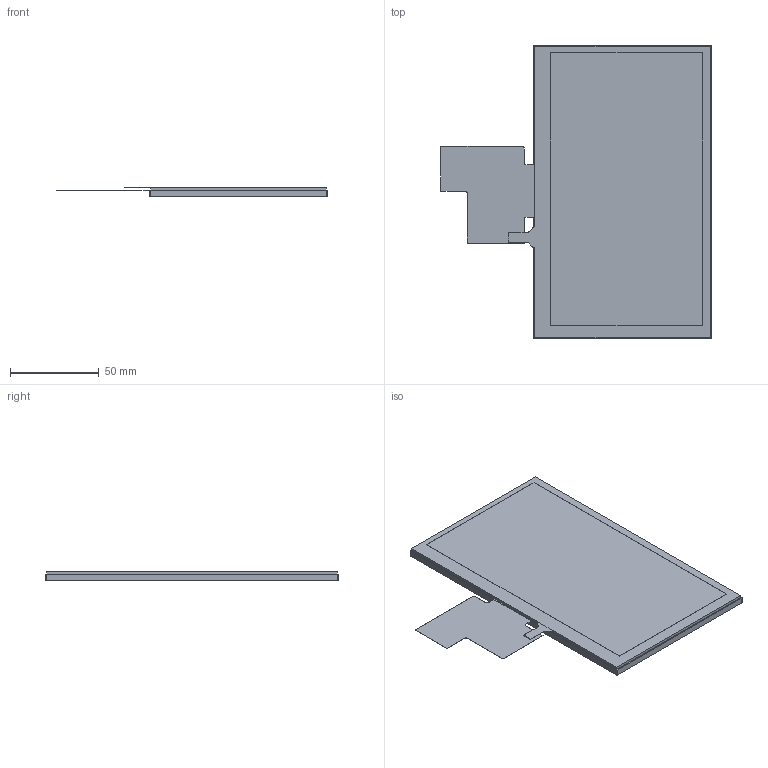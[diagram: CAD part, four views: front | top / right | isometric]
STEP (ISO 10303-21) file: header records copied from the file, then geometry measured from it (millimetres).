
FILE_DESCRIPTION((''),'2;1');
FILE_NAME('DMG0480F070-01WTR','2021-11-09T',('Administrator'),(''),'PRO/ENGINEER BY PARAMETRIC TECHNOLOGY CORPORATION, 2011310','PRO/ENGINEER BY PARAMETRIC TECHNOLOGY CORPORATION, 2011310','');
FILE_SCHEMA(('CONFIG_CONTROL_DESIGN','SHAPE_APPEARANCE_LAYERS_GROUPS'));
Length unit declared in the file: millimetre
Products named in the file (1): DMG0480F070-01WTR
Bounding box: 152.46 x 164.86 x 5 mm (x, y, z)
Volume: 78941.4 mm3; surface area: 67022.5 mm2
Topology: 1 solids, 2 shells, 64 faces, 174 edges, 116 vertices
Faces by surface type: plane 43, cylinder 21
Entity records: 2132 total; most frequent: CARTESIAN_POINT 354, ORIENTED_EDGE 348, DIRECTION 344, EDGE_CURVE 174, VECTOR 132, LINE 132, VERTEX_POINT 116, AXIS2_PLACEMENT_3D 106
